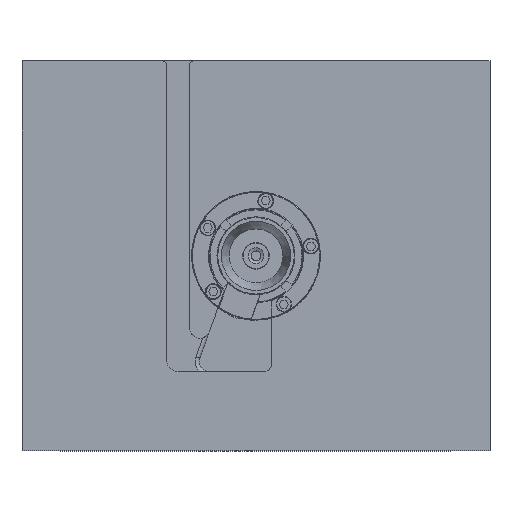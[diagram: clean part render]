
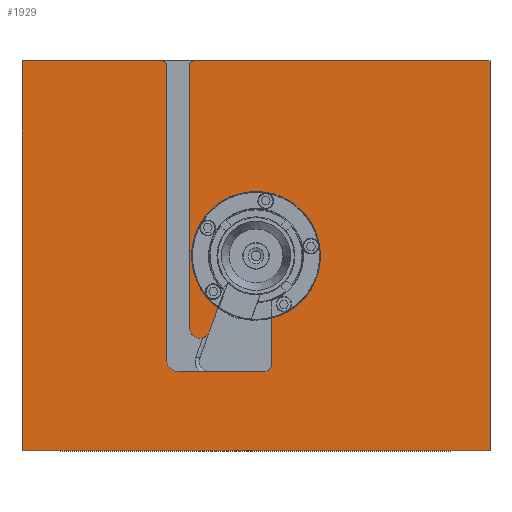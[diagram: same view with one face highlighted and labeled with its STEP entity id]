
A CAD part, top view. The second image highlights one B-rep face of the part: STEP entity #1929.
In plain terms, the highlighted planar face has unit normal (0, 0, 1).
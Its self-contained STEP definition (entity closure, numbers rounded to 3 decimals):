
#1929 = ADVANCED_FACE( '', ( #4104 ), #4105, .F. );
#4104 = FACE_OUTER_BOUND( '', #6533, .T. );
#4105 = PLANE( '', #6534 );
#6533 = EDGE_LOOP( '', ( #10809, #10810, #10811, #10812, #10813, #10814, #10815, #10816, #10817, #10818, #10819, #10820, #10821, #10822, #10823, #10824 ) );
#6534 = AXIS2_PLACEMENT_3D( '', #10825, #10826, #10827 );
#10809 = ORIENTED_EDGE( '', *, *, #12516, .F. );
#10810 = ORIENTED_EDGE( '', *, *, #12988, .T. );
#10811 = ORIENTED_EDGE( '', *, *, #12753, .T. );
#10812 = ORIENTED_EDGE( '', *, *, #12782, .T. );
#10813 = ORIENTED_EDGE( '', *, *, #12614, .T. );
#10814 = ORIENTED_EDGE( '', *, *, #12991, .F. );
#10815 = ORIENTED_EDGE( '', *, *, #12844, .T. );
#10816 = ORIENTED_EDGE( '', *, *, #12992, .F. );
#10817 = ORIENTED_EDGE( '', *, *, #12993, .F. );
#10818 = ORIENTED_EDGE( '', *, *, #11725, .T. );
#10819 = ORIENTED_EDGE( '', *, *, #12418, .F. );
#10820 = ORIENTED_EDGE( '', *, *, #12933, .T. );
#10821 = ORIENTED_EDGE( '', *, *, #12521, .F. );
#10822 = ORIENTED_EDGE( '', *, *, #12539, .F. );
#10823 = ORIENTED_EDGE( '', *, *, #12131, .F. );
#10824 = ORIENTED_EDGE( '', *, *, #12925, .F. );
#10825 = CARTESIAN_POINT( '', ( 300., -250., 0. ) );
#10826 = DIRECTION( '', ( 0., 0., -1. ) );
#10827 = DIRECTION( '', ( 0., -1., 0. ) );
#11725 = EDGE_CURVE( '', #13659, #13664, #13666, .T. );
#12131 = EDGE_CURVE( '', #14321, #14322, #14323, .T. );
#12418 = EDGE_CURVE( '', #14741, #13664, #14743, .F. );
#12516 = EDGE_CURVE( '', #14876, #14878, #14879, .T. );
#12521 = EDGE_CURVE( '', #14885, #14887, #14888, .T. );
#12539 = EDGE_CURVE( '', #14322, #14885, #14912, .T. );
#12614 = EDGE_CURVE( '', #15007, #15014, #15016, .F. );
#12753 = EDGE_CURVE( '', #15199, #15200, #15201, .T. );
#12782 = EDGE_CURVE( '', #15200, #15007, #15235, .F. );
#12844 = EDGE_CURVE( '', #15312, #15310, #15313, .F. );
#12925 = EDGE_CURVE( '', #14878, #14321, #15406, .T. );
#12933 = EDGE_CURVE( '', #14741, #14887, #15415, .F. );
#12988 = EDGE_CURVE( '', #14876, #15199, #15474, .F. );
#12991 = EDGE_CURVE( '', #15312, #15014, #15477, .F. );
#12992 = EDGE_CURVE( '', #15478, #15310, #15479, .F. );
#12993 = EDGE_CURVE( '', #13659, #15478, #15480, .T. );
#13659 = VERTEX_POINT( '', #16296 );
#13664 = VERTEX_POINT( '', #16302 );
#13666 = CIRCLE( '', #16305, 15. );
#14321 = VERTEX_POINT( '', #17169 );
#14322 = VERTEX_POINT( '', #17170 );
#14323 = LINE( '', #17171, #17172 );
#14741 = VERTEX_POINT( '', #17718 );
#14743 = LINE( '', #17721, #17722 );
#14876 = VERTEX_POINT( '', #17891 );
#14878 = VERTEX_POINT( '', #17894 );
#14879 = LINE( '', #17895, #17896 );
#14885 = VERTEX_POINT( '', #17905 );
#14887 = VERTEX_POINT( '', #17908 );
#14888 = LINE( '', #17909, #17910 );
#14912 = LINE( '', #17939, #17940 );
#15007 = VERTEX_POINT( '', #18055 );
#15014 = VERTEX_POINT( '', #18066 );
#15016 = LINE( '', #18069, #18070 );
#15199 = VERTEX_POINT( '', #18391 );
#15200 = VERTEX_POINT( '', #18392 );
#15201 = LINE( '', #18393, #18394 );
#15235 = CIRCLE( '', #18453, 13. );
#15310 = VERTEX_POINT( '', #18542 );
#15312 = VERTEX_POINT( '', #18545 );
#15313 = LINE( '', #18546, #18547 );
#15406 = LINE( '', #18708, #18709 );
#15415 = CIRCLE( '', #18718, 5. );
#15474 = CIRCLE( '', #18789, 5. );
#15477 = CIRCLE( '', #18792, 82.5 );
#15478 = VERTEX_POINT( '', #18793 );
#15479 = CIRCLE( '', #18794, 8.853 );
#15480 = LINE( '', #18795, #18796 );
#16296 = CARTESIAN_POINT( '', ( -100., -148., 0. ) );
#16302 = CARTESIAN_POINT( '', ( -115., -133., 0. ) );
#16305 = AXIS2_PLACEMENT_3D( '', #19400, #19401, #19402 );
#17169 = CARTESIAN_POINT( '', ( 300., -250., 0. ) );
#17170 = CARTESIAN_POINT( '', ( -300., -250., 0. ) );
#17171 = CARTESIAN_POINT( '', ( 300., -250., 0. ) );
#17172 = VECTOR( '', #19954, 1000. );
#17718 = CARTESIAN_POINT( '', ( -115., 245., 0. ) );
#17721 = CARTESIAN_POINT( '', ( -115., 260., 0. ) );
#17722 = VECTOR( '', #20337, 1000. );
#17891 = CARTESIAN_POINT( '', ( -80., 250., 0. ) );
#17894 = CARTESIAN_POINT( '', ( 300., 250., 0. ) );
#17895 = CARTESIAN_POINT( '', ( -300., 250., 0. ) );
#17896 = VECTOR( '', #20447, 1000. );
#17905 = CARTESIAN_POINT( '', ( -300., 250., 0. ) );
#17908 = CARTESIAN_POINT( '', ( -120., 250., 0. ) );
#17909 = CARTESIAN_POINT( '', ( -300., 250., 0. ) );
#17910 = VECTOR( '', #20452, 1000. );
#17939 = CARTESIAN_POINT( '', ( -300., -250., 0. ) );
#17940 = VECTOR( '', #20473, 1000. );
#18055 = CARTESIAN_POINT( '', ( -59.784, -97.008, 0. ) );
#18066 = CARTESIAN_POINT( '', ( -48.711, -66.585, 0. ) );
#18069 = CARTESIAN_POINT( '', ( -66.868, -116.471, 0. ) );
#18070 = VECTOR( '', #20565, 1000. );
#18391 = CARTESIAN_POINT( '', ( -85., 245., 0. ) );
#18392 = CARTESIAN_POINT( '', ( -85., -92.561, 0. ) );
#18393 = CARTESIAN_POINT( '', ( -85., -250., 0. ) );
#18394 = VECTOR( '', #20698, 1000. );
#18453 = AXIS2_PLACEMENT_3D( '', #20719, #20720, #20721 );
#18542 = CARTESIAN_POINT( '', ( 20., -139.147, 0. ) );
#18545 = CARTESIAN_POINT( '', ( 20., -80.039, 0. ) );
#18546 = CARTESIAN_POINT( '', ( 20., -250., 0. ) );
#18547 = VECTOR( '', #20779, 1000. );
#18708 = CARTESIAN_POINT( '', ( 300., 250., 0. ) );
#18709 = VECTOR( '', #20829, 1000. );
#18718 = AXIS2_PLACEMENT_3D( '', #20836, #20837, #20838 );
#18789 = AXIS2_PLACEMENT_3D( '', #20860, #20861, #20862 );
#18792 = AXIS2_PLACEMENT_3D( '', #20863, #20864, #20865 );
#18793 = CARTESIAN_POINT( '', ( 11.147, -148., 0. ) );
#18794 = AXIS2_PLACEMENT_3D( '', #20866, #20867, #20868 );
#18795 = CARTESIAN_POINT( '', ( -60.404, -148., 0. ) );
#18796 = VECTOR( '', #20869, 1000. );
#19400 = CARTESIAN_POINT( '', ( -100., -133., 0. ) );
#19401 = DIRECTION( '', ( 0., 0., -1. ) );
#19402 = DIRECTION( '', ( -1., 0., 0. ) );
#19954 = DIRECTION( '', ( -1., 0., 0. ) );
#20337 = DIRECTION( '', ( 0., 1., 0. ) );
#20447 = DIRECTION( '', ( 1., 0., 0. ) );
#20452 = DIRECTION( '', ( 1., 0., 0. ) );
#20473 = DIRECTION( '', ( 0., 1., 0. ) );
#20565 = DIRECTION( '', ( -0.342, -0.94, 0. ) );
#20698 = DIRECTION( '', ( 0., -1., 0. ) );
#20719 = CARTESIAN_POINT( '', ( -72., -92.561, 0. ) );
#20720 = DIRECTION( '', ( 0., 0., -1. ) );
#20721 = DIRECTION( '', ( -1., 0., 0. ) );
#20779 = DIRECTION( '', ( 0., 1., 0. ) );
#20829 = DIRECTION( '', ( 0., -1., 0. ) );
#20836 = CARTESIAN_POINT( '', ( -120., 245., 0. ) );
#20837 = DIRECTION( '', ( 0., 0., -1. ) );
#20838 = DIRECTION( '', ( -1., 0., 0. ) );
#20860 = CARTESIAN_POINT( '', ( -80., 245., 0. ) );
#20861 = DIRECTION( '', ( 0., 0., -1. ) );
#20862 = DIRECTION( '', ( -1., 0., 0. ) );
#20863 = CARTESIAN_POINT( '', ( 0., 0., 0. ) );
#20864 = DIRECTION( '', ( 0., 0., -1. ) );
#20865 = DIRECTION( '', ( -1., 0., 0. ) );
#20866 = CARTESIAN_POINT( '', ( 11.147, -139.147, 0. ) );
#20867 = DIRECTION( '', ( 0., 0., -1. ) );
#20868 = DIRECTION( '', ( -1., 0., 0. ) );
#20869 = DIRECTION( '', ( 1., 0., 0. ) );
